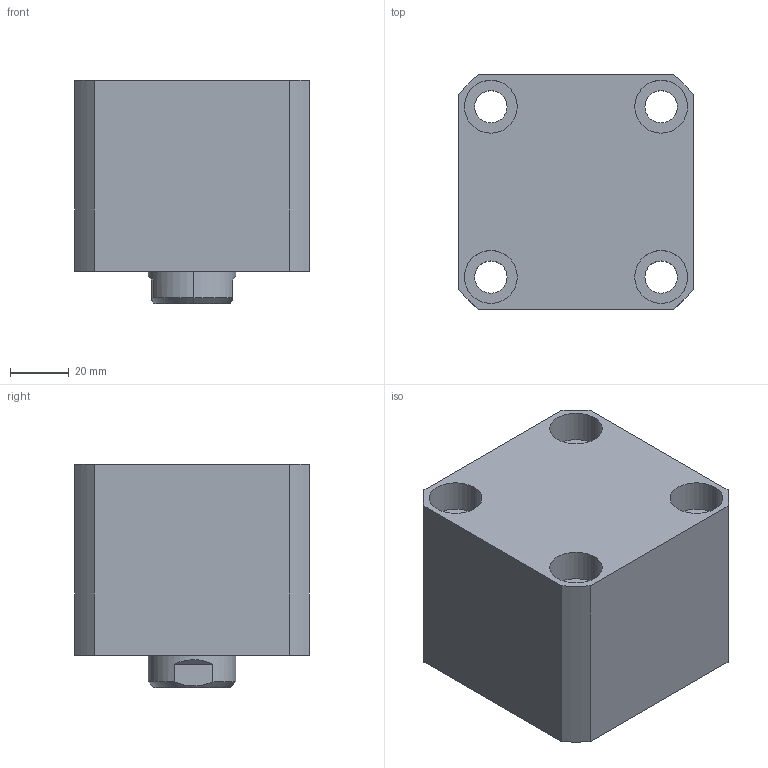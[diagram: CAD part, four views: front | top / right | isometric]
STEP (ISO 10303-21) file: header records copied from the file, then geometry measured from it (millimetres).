
FILE_DESCRIPTION (( 'STEP AP203' ), '1' );
FILE_NAME ('CHTB-SDMA50-5N.STEP', '2018-05-19T01:10:34', ( '' ), ( '' ), 'SwSTEP 2.0', 'SolidWorks 2015', '' );
FILE_SCHEMA (( 'CONFIG_CONTROL_DESIGN' ));
Length unit declared in the file: millimetre
Products named in the file (5): 活塞杆SDMA50-5N; 掛极SDMA50-5N; M6; CHTM-SDMA50QG; CHTB-SDMA50-5N
Assembly tree (5 placements, depth 2):
  CHTB-SDMA50-5N
    掛极SDMA50-5N
    CHTM-SDMA50QG
    活塞杆SDMA50-5N
    M6  x2
Bounding box: 80 x 80 x 76 mm (x, y, z)
Volume: 358593.3 mm3; surface area: 82970.2 mm2
Topology: 5 solids, 5 shells, 270 faces, 703 edges, 464 vertices
Faces by surface type: cylinder 139, plane 58, cone 31, bspline 26, torus 16
Entity records: 14133 total; most frequent: CARTESIAN_POINT 8131, ORIENTED_EDGE 1208, DIRECTION 1054, EDGE_CURVE 604, AXIS2_PLACEMENT_3D 433, VERTEX_POINT 403, EDGE_LOOP 277, FACE_OUTER_BOUND 235
